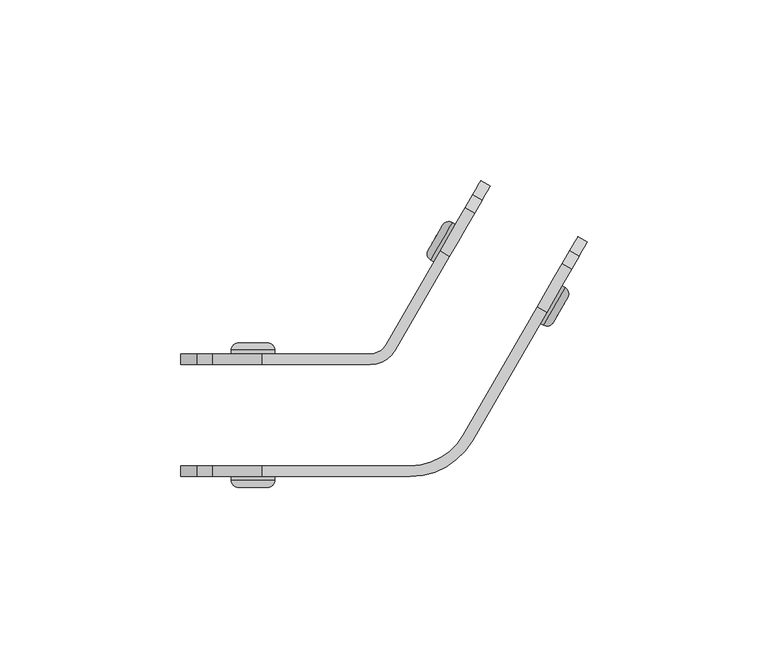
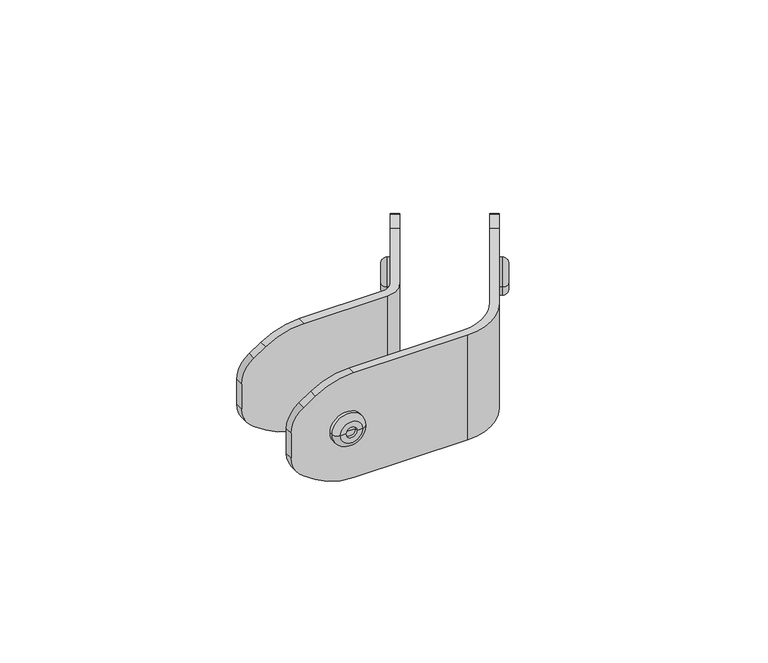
"""IFC4 building model written with IfcOpenShell, lengths in millimetres: furniture geometry, DBLTD_Sixteen3_PrivacyScreens_Artus_Bracket : 120° Corner Link."""

from ifc_helpers import new_model, si_unit, point, frame, origin, place, context, project, spatial, polyline, circle_curve, ellipse_curve, trimmed, source, transform, mapped, element, save
from ifc_brep_helpers import plane_surface, cylinder_surface, revolved_surface, advanced_brep


def furniture_681635c7(model_context):
    return source(origin(), model_context, "Body", "AdvancedBrep", [
        advanced_brep(
        [(26.5, 845.4352448, 100.0), (32.5, 855.8275496, 100.0), (33.3537451, 855.3346397, 100.0), (27.3537451, 844.9423348, 100.0), (29.5, 850.6313972, 100.0), (30.2320508, 847.8993464, 100.0), (32.2320508, 851.363448, 100.0), (31.2320508, 849.6313972, 100.0), (31.0980762, 847.3993464, 100.0), (33.0980762, 850.863448, 100.0), (30.1051663, 845.6795759, 100.0), (34.0909862, 852.5832185, 100.0)],
        [
            (0, 1, circle_curve(frame((29.5, 850.6313972, 100.0), z_axis=(0.866025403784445, -0.49999999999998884, 0.0), x_axis=(0.49999999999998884, 0.866025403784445, 0.0)), 6.0)),
            (1, 2),
            (2, 3, circle_curve(frame((30.3537451, 850.1384873, 100.0), z_axis=(-0.866025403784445, 0.49999999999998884, 0.0), x_axis=(0.49999999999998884, 0.866025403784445, 0.0)), 6.0)),
            (3, 0),
            (1, 0, circle_curve(frame((29.5, 850.6313972, 100.0), z_axis=(0.866025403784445, -0.49999999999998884, 0.0), x_axis=(0.49999999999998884, 0.866025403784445, 0.0)), 6.0)),
            (3, 2, circle_curve(frame((30.3537451, 850.1384873, 100.0), z_axis=(-0.866025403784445, 0.49999999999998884, 0.0), x_axis=(0.49999999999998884, 0.866025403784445, 0.0)), 6.0)),
            (4, 1),
            (0, 4),
            (5, 6, circle_curve(frame((31.2320508, 849.6313972, 100.0), z_axis=(0.866025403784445, -0.49999999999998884, 0.0), x_axis=(0.49999999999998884, 0.866025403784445, 0.0)), 2.0)),
            (6, 7),
            (7, 5),
            (6, 5, circle_curve(frame((31.2320508, 849.6313972, 100.0), z_axis=(0.866025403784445, -0.49999999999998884, 0.0), x_axis=(0.49999999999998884, 0.866025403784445, 0.0)), 2.0)),
            (8, 9, circle_curve(frame((32.0980762, 849.1313972, 100.0), z_axis=(0.866025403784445, -0.49999999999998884, 0.0), x_axis=(0.49999999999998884, 0.866025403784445, 0.0)), 2.0)),
            (9, 6),
            (5, 8),
            (9, 8, circle_curve(frame((32.0980762, 849.1313972, 100.0), z_axis=(0.866025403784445, -0.49999999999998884, 0.0), x_axis=(0.49999999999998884, 0.866025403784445, 0.0)), 2.0)),
            (10, 11, circle_curve(frame((32.0980762, 849.1313972, 100.0), z_axis=(0.866025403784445, -0.49999999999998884, 0.0), x_axis=(0.49999999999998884, 0.866025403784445, 0.0)), 3.9858199)),
            (11, 9),
            (8, 10),
            (11, 10, circle_curve(frame((32.0980762, 849.1313972, 100.0), z_axis=(0.866025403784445, -0.49999999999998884, 0.0), x_axis=(0.49999999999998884, 0.866025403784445, 0.0)), 3.9858199)),
            (2, 11, circle_curve(frame((32.346655, 853.5903085, 100.0), z_axis=(0.0, 0.0, -1.0), x_axis=(-0.499999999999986, -0.8660254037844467, 0.0)), 2.0141801)),
            (10, 3, circle_curve(frame((28.3608351, 846.686666, 100.0), z_axis=(0.0, 0.0, -1.0), x_axis=(0.4999999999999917, 0.8660254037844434, 0.0)), 2.0141801)),
        ],
        [
            cylinder_surface(frame((30.7336307, 849.9191602, 100.0), z_axis=(-0.866025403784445, 0.49999999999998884, 0.0), x_axis=(0.49999999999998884, 0.866025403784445, 0.0)), 6.0),
            plane_surface(frame((29.5, 850.6313972, 100.0), z_axis=(-0.866025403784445, 0.49999999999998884, 0.0), x_axis=(0.49999999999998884, 0.866025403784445, 0.0))),
            plane_surface(frame((31.2320508, 849.6313972, 100.0), z_axis=(0.866025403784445, -0.49999999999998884, 0.0), x_axis=(0.49999999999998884, 0.866025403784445, 0.0))),
            revolved_surface(polyline([(32.23205080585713, 851.3634480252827, 100.0), (33.09807621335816, 850.8634480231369, 100.0)]), (30.7336307, 849.9191602, 100.0), (-0.866025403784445, 0.49999999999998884, 0.0)),
            plane_surface(frame((32.0980762, 849.1313972, 100.0), z_axis=(0.866025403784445, -0.49999999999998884, 0.0), x_axis=(0.49999999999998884, 0.866025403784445, 0.0))),
            revolved_surface(trimmed(ellipse_curve(frame((32.346655, 853.5903085, 100.0), z_axis=(0.0, 0.0, 1.0), x_axis=(-0.499999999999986, -0.8660254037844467, 0.0)), 2.0141801, 2.0141801), [point((34.0909862, 852.5832185, 100.0))], [point((33.3537451, 855.3346397, 100.0))], True, "CARTESIAN"), (30.7336307, 849.9191602, 100.0), (-0.866025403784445, 0.49999999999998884, 0.0)),
        ],
        [
            (0, [[1, 2, 3, 4]]),
            (0, [[5, -4, 6, -2]]),
            (1, [[7, -1, 8]]),
            (1, [[-8, -5, -7]]),
            (2, [[9, 10, 11]]),
            (2, [[12, -11, -10]]),
            (3, [[13, 14, -9, 15]]),
            (3, [[16, -15, -12, -14]]),
            (4, [[17, 18, -13, 19]]),
            (4, [[20, -19, -16, -18]]),
            (5, [[-3, 21, -17, 22]]),
            (5, [[-6, -22, -20, -21]]),
        ],
    ),
        advanced_brep(
        [(-3.7986088, 862.9281547, 100.0), (2.2013912, 873.3204596, 100.0), (3.0551363, 872.8275496, 100.0), (-2.9448637, 862.4352448, 100.0), (0.0551363, 867.6313972, 100.0), (-1.6769145, 868.6313972, 100.0), (-0.6769145, 870.363448, 100.0), (-2.6769145, 866.8993464, 100.0), (-1.5429399, 870.863448, 100.0), (-3.5429399, 867.3993464, 100.0), (-0.55003, 872.5832185, 100.0), (-4.5358499, 865.6795759, 100.0)],
        [
            (0, 1, circle_curve(frame((-0.7986088, 868.1243072, 100.0), z_axis=(0.8660254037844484, -0.4999999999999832, 0.0), x_axis=(0.4999999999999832, 0.8660254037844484, 0.0)), 6.0)),
            (1, 2),
            (2, 3, circle_curve(frame((0.0551363, 867.6313972, 100.0), z_axis=(-0.8660254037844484, 0.4999999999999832, 0.0), x_axis=(0.4999999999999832, 0.8660254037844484, 0.0)), 6.0)),
            (3, 0),
            (1, 0, circle_curve(frame((-0.7986088, 868.1243072, 100.0), z_axis=(0.8660254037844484, -0.4999999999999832, 0.0), x_axis=(0.4999999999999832, 0.8660254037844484, 0.0)), 6.0)),
            (3, 2, circle_curve(frame((0.0551363, 867.6313972, 100.0), z_axis=(-0.8660254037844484, 0.4999999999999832, 0.0), x_axis=(0.4999999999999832, 0.8660254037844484, 0.0)), 6.0)),
            (2, 4),
            (4, 3),
            (5, 6),
            (6, 7, circle_curve(frame((-1.6769145, 868.6313972, 100.0), z_axis=(-0.8660254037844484, 0.4999999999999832, 0.0), x_axis=(0.4999999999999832, 0.8660254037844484, 0.0)), 2.0)),
            (7, 5),
            (7, 6, circle_curve(frame((-1.6769145, 868.6313972, 100.0), z_axis=(-0.8660254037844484, 0.4999999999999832, 0.0), x_axis=(0.4999999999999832, 0.8660254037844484, 0.0)), 2.0)),
            (6, 8),
            (8, 9, circle_curve(frame((-2.5429399, 869.1313972, 100.0), z_axis=(-0.8660254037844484, 0.4999999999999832, 0.0), x_axis=(0.4999999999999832, 0.8660254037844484, 0.0)), 2.0)),
            (9, 7),
            (9, 8, circle_curve(frame((-2.5429399, 869.1313972, 100.0), z_axis=(-0.8660254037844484, 0.4999999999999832, 0.0), x_axis=(0.4999999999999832, 0.8660254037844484, 0.0)), 2.0)),
            (8, 10),
            (10, 11, circle_curve(frame((-2.5429399, 869.1313972, 100.0), z_axis=(-0.8660254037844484, 0.4999999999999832, 0.0), x_axis=(0.4999999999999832, 0.8660254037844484, 0.0)), 3.9858199)),
            (11, 9),
            (11, 10, circle_curve(frame((-2.5429399, 869.1313972, 100.0), z_axis=(-0.8660254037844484, 0.4999999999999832, 0.0), x_axis=(0.4999999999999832, 0.8660254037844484, 0.0)), 3.9858199)),
            (10, 1, circle_curve(frame((1.1943011, 871.5761284, 100.0), z_axis=(0.0, 0.0, -1.0), x_axis=(-0.499999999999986, -0.8660254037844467, 0.0)), 2.0141801)),
            (0, 11, circle_curve(frame((-2.7915187, 864.6724859, 100.0), z_axis=(0.0, 0.0, -1.0), x_axis=(0.49999999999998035, 0.86602540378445, 0.0)), 2.0141801)),
        ],
        [
            cylinder_surface(frame((-1.1784944, 868.3436342, 100.0), z_axis=(-0.8660254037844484, 0.4999999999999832, 0.0), x_axis=(0.4999999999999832, 0.8660254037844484, 0.0)), 6.0),
            plane_surface(frame((0.0551363, 867.6313972, 100.0), z_axis=(0.8660254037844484, -0.4999999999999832, 0.0), x_axis=(0.4999999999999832, 0.8660254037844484, 0.0))),
            plane_surface(frame((-1.6769145, 868.6313972, 100.0), z_axis=(-0.8660254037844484, 0.4999999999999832, 0.0), x_axis=(0.4999999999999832, 0.8660254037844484, 0.0))),
            revolved_surface(polyline([(-1.54293991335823, 870.8634479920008, 100.0), (-0.6769145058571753, 870.3634479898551, 100.0)]), (-1.1784944, 868.3436342, 100.0), (-0.8660254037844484, 0.4999999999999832, 0.0)),
            plane_surface(frame((-2.5429399, 869.1313972, 100.0), z_axis=(-0.8660254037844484, 0.4999999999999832, 0.0), x_axis=(0.4999999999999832, 0.8660254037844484, 0.0))),
            revolved_surface(trimmed(ellipse_curve(frame((1.1943011, 871.5761284, 100.0), z_axis=(0.0, 0.0, 1.0), x_axis=(-0.499999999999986, -0.8660254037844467, 0.0)), 2.0141801, 2.0141801), [point((2.2013912, 873.3204596, 100.0))], [point((-0.55003, 872.5832185, 100.0))], True, "CARTESIAN"), (-1.1784944, 868.3436342, 100.0), (-0.8660254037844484, 0.4999999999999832, 0.0)),
        ],
        [
            (0, [[1, 2, 3, 4]]),
            (0, [[5, -4, 6, -2]]),
            (1, [[-3, 7, 8]]),
            (1, [[-6, -8, -7]]),
            (2, [[9, 10, 11]]),
            (2, [[-11, 12, -9]]),
            (3, [[-10, 13, 14, 15]]),
            (3, [[-12, -15, 16, -13]]),
            (4, [[-14, 17, 18, 19]]),
            (4, [[-16, -19, 20, -17]]),
            (5, [[-18, 21, -1, 22]]),
            (5, [[-20, -22, -5, -21]]),
        ],
    ),
        advanced_brep(
        [(-47.0, 802.0141801, 100.0), (-59.0, 802.0141801, 100.0), (-59.0, 803.0, 100.0), (-47.0, 803.0, 100.0), (-53.0, 803.0, 100.0), (-53.0, 801.0, 100.0), (-55.0, 801.0, 100.0), (-51.0, 801.0, 100.0), (-55.0, 800.0, 100.0), (-51.0, 800.0, 100.0), (-56.9858199, 800.0, 100.0), (-49.0141801, 800.0, 100.0)],
        [
            (0, 1, circle_curve(frame((-53.0, 802.0141801, 100.0), z_axis=(0.0, 1.0, 0.0), x_axis=(-1.0, 0.0, 0.0)), 6.0)),
            (1, 2),
            (2, 3, circle_curve(frame((-53.0, 803.0, 100.0), z_axis=(0.0, -1.0, 0.0), x_axis=(-1.0, 0.0, 0.0)), 6.0)),
            (3, 0),
            (1, 0, circle_curve(frame((-53.0, 802.0141801, 100.0), z_axis=(0.0, 1.0, 0.0), x_axis=(-1.0, 0.0, 0.0)), 6.0)),
            (3, 2, circle_curve(frame((-53.0, 803.0, 100.0), z_axis=(0.0, -1.0, 0.0), x_axis=(-1.0, 0.0, 0.0)), 6.0)),
            (2, 4),
            (4, 3),
            (5, 6),
            (6, 7, circle_curve(frame((-53.0, 801.0, 100.0), z_axis=(0.0, -1.0, 0.0), x_axis=(-1.0, 0.0, 0.0)), 2.0)),
            (7, 5),
            (7, 6, circle_curve(frame((-53.0, 801.0, 100.0), z_axis=(0.0, -1.0, 0.0), x_axis=(-1.0, 0.0, 0.0)), 2.0)),
            (6, 8),
            (8, 9, circle_curve(frame((-53.0, 800.0, 100.0), z_axis=(0.0, -1.0, 0.0), x_axis=(-1.0, 0.0, 0.0)), 2.0)),
            (9, 7),
            (9, 8, circle_curve(frame((-53.0, 800.0, 100.0), z_axis=(0.0, -1.0, 0.0), x_axis=(-1.0, 0.0, 0.0)), 2.0)),
            (8, 10),
            (10, 11, circle_curve(frame((-53.0, 800.0, 100.0), z_axis=(0.0, -1.0, 0.0), x_axis=(-1.0, 0.0, 0.0)), 3.9858199)),
            (11, 9),
            (11, 10, circle_curve(frame((-53.0, 800.0, 100.0), z_axis=(0.0, -1.0, 0.0), x_axis=(-1.0, 0.0, 0.0)), 3.9858199)),
            (10, 1, circle_curve(frame((-56.9858199, 802.0141801, 100.0), z_axis=(0.0, 0.0, -1.0), x_axis=(1.0, 0.0, 0.0)), 2.0141801)),
            (0, 11, circle_curve(frame((-49.0141801, 802.0141801, 100.0), z_axis=(0.0, 0.0, -1.0), x_axis=(-1.0, 0.0, 0.0)), 2.0141801)),
        ],
        [
            cylinder_surface(frame((-53.0, 801.575526, 100.0), z_axis=(0.0, -1.0, 0.0), x_axis=(-1.0, 0.0, 0.0)), 6.0),
            plane_surface(frame((-53.0, 803.0, 100.0), z_axis=(0.0, 1.0, 0.0), x_axis=(-1.0, 0.0, 0.0))),
            plane_surface(frame((-53.0, 801.0, 100.0), z_axis=(0.0, -1.0, 0.0), x_axis=(-1.0, 0.0, 0.0))),
            revolved_surface(polyline([(-55.0, 800.0, 100.0), (-55.0, 801.0, 100.0)]), (-53.0, 801.575526, 100.0), (0.0, -1.0, 0.0)),
            plane_surface(frame((-53.0, 800.0, 100.0), z_axis=(0.0, -1.0, 0.0), x_axis=(-1.0, 0.0, 0.0))),
            revolved_surface(trimmed(ellipse_curve(frame((-56.9858199, 802.0141801, 100.0), z_axis=(0.0, 0.0, 1.0), x_axis=(1.0, 0.0, 0.0)), 2.0141801, 2.0141801), [point((-59.0, 802.0141801, 100.0))], [point((-56.9858199, 800.0, 100.0))], True, "CARTESIAN"), (-53.0, 801.575526, 100.0), (0.0, -1.0, 0.0)),
        ],
        [
            (0, [[1, 2, 3, 4]]),
            (0, [[5, -4, 6, -2]]),
            (1, [[-3, 7, 8]]),
            (1, [[-6, -8, -7]]),
            (2, [[9, 10, 11]]),
            (2, [[-11, 12, -9]]),
            (3, [[-10, 13, 14, 15]]),
            (3, [[-12, -15, 16, -13]]),
            (4, [[-14, 17, 18, 19]]),
            (4, [[-16, -19, 20, -17]]),
            (5, [[-18, 21, -1, 22]]),
            (5, [[-20, -22, -5, -21]]),
        ],
    ),
        advanced_brep(
        [(-47.0, 837.0, 100.0), (-59.0, 837.0, 100.0), (-59.0, 837.9858199, 100.0), (-47.0, 837.9858199, 100.0), (-53.0, 837.0, 100.0), (-51.0, 839.0, 100.0), (-55.0, 839.0, 100.0), (-53.0, 839.0, 100.0), (-51.0, 840.0, 100.0), (-55.0, 840.0, 100.0), (-49.0141801, 840.0, 100.0), (-56.9858199, 840.0, 100.0)],
        [
            (0, 1, circle_curve(frame((-53.0, 837.0, 100.0), z_axis=(0.0, 1.0, 0.0), x_axis=(-1.0, 0.0, 0.0)), 6.0)),
            (1, 2),
            (2, 3, circle_curve(frame((-53.0, 837.9858199, 100.0), z_axis=(0.0, -1.0, 0.0), x_axis=(-1.0, 0.0, 0.0)), 6.0)),
            (3, 0),
            (1, 0, circle_curve(frame((-53.0, 837.0, 100.0), z_axis=(0.0, 1.0, 0.0), x_axis=(-1.0, 0.0, 0.0)), 6.0)),
            (3, 2, circle_curve(frame((-53.0, 837.9858199, 100.0), z_axis=(0.0, -1.0, 0.0), x_axis=(-1.0, 0.0, 0.0)), 6.0)),
            (4, 1),
            (0, 4),
            (5, 6, circle_curve(frame((-53.0, 839.0, 100.0), z_axis=(0.0, 1.0, 0.0), x_axis=(-1.0, 0.0, 0.0)), 2.0)),
            (6, 7),
            (7, 5),
            (6, 5, circle_curve(frame((-53.0, 839.0, 100.0), z_axis=(0.0, 1.0, 0.0), x_axis=(-1.0, 0.0, 0.0)), 2.0)),
            (8, 9, circle_curve(frame((-53.0, 840.0, 100.0), z_axis=(0.0, 1.0, 0.0), x_axis=(-1.0, 0.0, 0.0)), 2.0)),
            (9, 6),
            (5, 8),
            (9, 8, circle_curve(frame((-53.0, 840.0, 100.0), z_axis=(0.0, 1.0, 0.0), x_axis=(-1.0, 0.0, 0.0)), 2.0)),
            (10, 11, circle_curve(frame((-53.0, 840.0, 100.0), z_axis=(0.0, 1.0, 0.0), x_axis=(-1.0, 0.0, 0.0)), 3.9858199)),
            (11, 9),
            (8, 10),
            (11, 10, circle_curve(frame((-53.0, 840.0, 100.0), z_axis=(0.0, 1.0, 0.0), x_axis=(-1.0, 0.0, 0.0)), 3.9858199)),
            (2, 11, circle_curve(frame((-56.9858199, 837.9858199, 100.0), z_axis=(0.0, 0.0, -1.0), x_axis=(1.0, 0.0, 0.0)), 2.0141801)),
            (10, 3, circle_curve(frame((-49.0141801, 837.9858199, 100.0), z_axis=(0.0, 0.0, -1.0), x_axis=(-1.0, 0.0, 0.0)), 2.0141801)),
        ],
        [
            cylinder_surface(frame((-53.0, 838.424474, 100.0), z_axis=(0.0, -1.0, 0.0), x_axis=(-1.0, 0.0, 0.0)), 6.0),
            plane_surface(frame((-53.0, 837.0, 100.0), z_axis=(0.0, -1.0, 0.0), x_axis=(-1.0, 0.0, 0.0))),
            plane_surface(frame((-53.0, 839.0, 100.0), z_axis=(0.0, 1.0, 0.0), x_axis=(-1.0, 0.0, 0.0))),
            revolved_surface(polyline([(-55.0, 839.0, 100.0), (-55.0, 840.0, 100.0)]), (-53.0, 838.424474, 100.0), (0.0, -1.0, 0.0)),
            plane_surface(frame((-53.0, 840.0, 100.0), z_axis=(0.0, 1.0, 0.0), x_axis=(-1.0, 0.0, 0.0))),
            revolved_surface(trimmed(ellipse_curve(frame((-56.9858199, 837.9858199, 100.0), z_axis=(0.0, 0.0, 1.0), x_axis=(1.0, 0.0, 0.0)), 2.0141801, 2.0141801), [point((-56.9858199, 840.0, 100.0))], [point((-59.0, 837.9858199, 100.0))], True, "CARTESIAN"), (-53.0, 838.424474, 100.0), (0.0, -1.0, 0.0)),
        ],
        [
            (0, [[1, 2, 3, 4]]),
            (0, [[5, -4, 6, -2]]),
            (1, [[7, -1, 8]]),
            (1, [[-8, -5, -7]]),
            (2, [[9, 10, 11]]),
            (2, [[12, -11, -10]]),
            (3, [[13, 14, -9, 15]]),
            (3, [[16, -15, -12, -14]]),
            (4, [[17, 18, -13, 19]]),
            (4, [[20, -19, -16, -18]]),
            (5, [[-3, 21, -17, 22]]),
            (5, [[-6, -22, -20, -21]]),
        ],
    ),
        advanced_brep(
        [(-9.5470054, 803.0, 120.0), (7.7735027, 813.0, 120.0), (28.2153045, 848.4062394, 120.0), (25.6172283, 849.9062394, 120.0), (5.1754265, 814.5, 120.0), (-9.5470054, 806.0, 120.0), (-50.4306091, 806.0, 120.0), (-50.4306091, 803.0, 120.0), (-9.5470054, 806.0, 80.0), (5.1754265, 814.5, 80.0), (25.6172283, 849.9062394, 80.0), (28.2153045, 848.4062394, 80.0), (7.7735027, 813.0, 80.0), (-9.5470054, 803.0, 80.0), (-50.4306091, 803.0, 80.0), (-50.4306091, 806.0, 80.0), (-73.0, 806.0, 104.6481624), (-73.0, 806.0, 95.3518376), (-73.0, 803.0, 95.3518376), (-73.0, 803.0, 104.6481624), (-64.298114, 803.0, 115.8012574), (-68.547002, 803.0, 112.9686654), (-68.547002, 803.0, 87.0313346), (-64.298114, 803.0, 84.1987426), (35.149057, 860.4158509, 84.1987426), (37.273501, 864.0954959, 87.0313346), (39.5, 867.9519053, 95.3518376), (39.5, 867.9519053, 104.6481624), (37.273501, 864.0954959, 112.9686654), (35.149057, 860.4158509, 115.8012574), (36.9019238, 869.4519053, 95.3518376), (36.9019238, 869.4519053, 104.6481624), (32.5509808, 861.9158509, 115.8012574), (34.6754248, 865.5954959, 112.9686654), (34.6754248, 865.5954959, 87.0313346), (32.5509808, 861.9158509, 84.1987426), (-64.298114, 806.0, 84.1987426), (-68.547002, 806.0, 87.0313346), (-68.547002, 806.0, 112.9686654), (-64.298114, 806.0, 115.8012574)],
        [
            (0, 1, circle_curve(frame((-9.5470054, 823.0, 120.0), z_axis=(0.0, 0.0, 1.0), x_axis=(1.0, 0.0, 0.0)), 20.0)),
            (1, 2),
            (2, 3),
            (3, 4),
            (4, 5, circle_curve(frame((-9.5470054, 823.0, 120.0), z_axis=(0.0, 0.0, -1.0), x_axis=(1.0, 0.0, 0.0)), 17.0)),
            (5, 6),
            (6, 7),
            (7, 0),
            (8, 9, circle_curve(frame((-9.5470054, 823.0, 80.0), z_axis=(0.0, 0.0, 1.0), x_axis=(1.0, 0.0, 0.0)), 17.0)),
            (9, 10),
            (10, 11),
            (11, 12),
            (12, 13, circle_curve(frame((-9.5470054, 823.0, 80.0), z_axis=(0.0, 0.0, -1.0), x_axis=(1.0, 0.0, 0.0)), 20.0)),
            (13, 14),
            (14, 15),
            (15, 8),
            (16, 17),
            (17, 18),
            (18, 19),
            (19, 16),
            (13, 0),
            (7, 20, circle_curve(frame((-50.4306091, 803.0, 95.0), z_axis=(0.0, -1.0, 0.0), x_axis=(1.0, 0.0, 0.0)), 25.0)),
            (20, 21),
            (21, 19, circle_curve(frame((-63.0, 803.0, 104.6481624), z_axis=(0.0, -1.0, 0.0), x_axis=(1.0, 0.0, 0.0)), 10.0)),
            (18, 22, circle_curve(frame((-63.0, 803.0, 95.3518376), z_axis=(0.0, -1.0, 0.0), x_axis=(1.0, 0.0, 0.0)), 10.0)),
            (22, 23),
            (23, 14, circle_curve(frame((-50.4306091, 803.0, 105.0), z_axis=(0.0, -1.0, 0.0), x_axis=(1.0, 0.0, 0.0)), 25.0)),
            (12, 1),
            (11, 24, circle_curve(frame((28.2153045, 848.4062394, 105.0), z_axis=(0.8660254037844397, -0.4999999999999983, 0.0), x_axis=(-0.4999999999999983, -0.8660254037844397, 0.0)), 25.0)),
            (24, 25),
            (25, 26, circle_curve(frame((34.5, 859.2916512, 95.3518376), z_axis=(0.8660254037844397, -0.4999999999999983, 0.0), x_axis=(-0.4999999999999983, -0.8660254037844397, 0.0)), 10.0)),
            (26, 27),
            (27, 28, circle_curve(frame((34.5, 859.2916512, 104.6481624), z_axis=(0.8660254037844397, -0.4999999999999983, 0.0), x_axis=(-0.4999999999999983, -0.8660254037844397, 0.0)), 10.0)),
            (28, 29),
            (29, 2, circle_curve(frame((28.2153045, 848.4062394, 95.0), z_axis=(0.8660254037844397, -0.4999999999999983, 0.0), x_axis=(-0.4999999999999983, -0.8660254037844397, 0.0)), 25.0)),
            (26, 30),
            (30, 31),
            (31, 27),
            (9, 4),
            (3, 32, circle_curve(frame((25.6172283, 849.9062394, 95.0), z_axis=(-0.8660254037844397, 0.4999999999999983, 0.0), x_axis=(-0.4999999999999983, -0.8660254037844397, 0.0)), 25.0)),
            (32, 33),
            (33, 31, circle_curve(frame((31.9019238, 860.7916512, 104.6481624), z_axis=(-0.8660254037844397, 0.4999999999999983, 0.0), x_axis=(-0.4999999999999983, -0.8660254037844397, 0.0)), 10.0)),
            (30, 34, circle_curve(frame((31.9019238, 860.7916512, 95.3518376), z_axis=(-0.8660254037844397, 0.4999999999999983, 0.0), x_axis=(-0.4999999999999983, -0.8660254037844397, 0.0)), 10.0)),
            (34, 35),
            (35, 10, circle_curve(frame((25.6172283, 849.9062394, 105.0), z_axis=(-0.8660254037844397, 0.4999999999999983, 0.0), x_axis=(-0.4999999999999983, -0.8660254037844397, 0.0)), 25.0)),
            (8, 5),
            (15, 36, circle_curve(frame((-50.4306091, 806.0, 105.0), z_axis=(0.0, 1.0, 0.0), x_axis=(1.0, 0.0, 0.0)), 25.0)),
            (36, 37),
            (37, 17, circle_curve(frame((-63.0, 806.0, 95.3518376), z_axis=(0.0, 1.0, 0.0), x_axis=(1.0, 0.0, 0.0)), 10.0)),
            (16, 38, circle_curve(frame((-63.0, 806.0, 104.6481624), z_axis=(0.0, 1.0, 0.0), x_axis=(1.0, 0.0, 0.0)), 10.0)),
            (38, 39),
            (39, 6, circle_curve(frame((-50.4306091, 806.0, 95.0), z_axis=(0.0, 1.0, 0.0), x_axis=(1.0, 0.0, 0.0)), 25.0)),
            (23, 36),
            (22, 37),
            (21, 38),
            (20, 39),
            (33, 28),
            (32, 29),
            (35, 24),
            (34, 25),
        ],
        [
            plane_surface(frame((-73.0, 806.0, 120.0), z_axis=(0.0, 0.0, 1.0), x_axis=(0.0, -1.0, 0.0))),
            plane_surface(frame((-73.0, 806.0, 80.0), z_axis=(0.0, 0.0, -1.0), x_axis=(0.0, 1.0, 0.0))),
            plane_surface(frame((-73.0, 806.0, 120.0), z_axis=(-1.0, 0.0, 0.0), x_axis=(0.0, 0.0, -1.0))),
            plane_surface(frame((-73.0, 803.0, 120.0), z_axis=(0.0, -1.0, 0.0), x_axis=(0.0, 0.0, -1.0))),
            cylinder_surface(frame((-9.5470054, 823.0, 80.0), z_axis=(0.0, 0.0, 1.0), x_axis=(1.0, 0.0, 0.0)), 20.0),
            plane_surface(frame((7.7735027, 813.0, 120.0), z_axis=(0.8660254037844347, -0.5000000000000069, 0.0), x_axis=(0.0, 0.0, -1.0))),
            plane_surface(frame((39.5, 867.9519053, 120.0), z_axis=(0.500000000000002, 0.8660254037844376, 0.0), x_axis=(0.0, 0.0, -1.0))),
            plane_surface(frame((36.9019238, 869.4519053, 120.0), z_axis=(-0.8660254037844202, 0.5000000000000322, 0.0), x_axis=(0.0, 0.0, -1.0))),
            revolved_surface(polyline([(7.4529946, 823.0, 80.0), (7.4529946, 823.0, 120.0)]), (-9.5470054, 823.0, 80.0), (0.0, 0.0, -1.0)),
            plane_surface(frame((-9.5470054, 806.0, 120.0), z_axis=(0.0, 1.0, 0.0), x_axis=(0.0, 0.0, -1.0))),
            cylinder_surface(frame((-50.4306091, 837.0, 105.0), z_axis=(0.0, 1.0, 0.0), x_axis=(1.0, 0.0, 0.0)), 25.0),
            plane_surface(frame((-64.298114, 803.0, 84.1987426), z_axis=(-0.5547001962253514, 0.0, -0.8320502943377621), x_axis=(0.0, 1.0, 0.0))),
            cylinder_surface(frame((-63.0, 837.0, 95.3518376), z_axis=(0.0, 1.0, 0.0), x_axis=(1.0, 0.0, 0.0)), 10.0),
            cylinder_surface(frame((-63.0, 0.0, 104.6481624), z_axis=(0.0, 1.0, 0.0), x_axis=(1.0, 0.0, 0.0)), 10.0),
            plane_surface(frame((-68.547002, 803.0, 112.9686654), z_axis=(-0.5547001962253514, 0.0, 0.8320502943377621), x_axis=(0.0, 1.0, 0.0))),
            cylinder_surface(frame((-50.4306091, 0.0, 95.0), z_axis=(0.0, 1.0, 0.0), x_axis=(1.0, 0.0, 0.0)), 25.0),
            cylinder_surface(frame((5.0551363, 876.2916512, 104.6481624), z_axis=(-0.8660254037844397, 0.4999999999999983, 0.0), x_axis=(-0.4999999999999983, -0.8660254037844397, 0.0)), 10.0),
            plane_surface(frame((35.149057, 860.4158509, 115.8012574), z_axis=(0.27735009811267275, 0.48038446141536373, 0.8320502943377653), x_axis=(-0.8660254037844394, 0.49999999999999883, 0.0))),
            cylinder_surface(frame((-1.2295592, 865.4062394, 95.0), z_axis=(-0.8660254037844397, 0.4999999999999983, 0.0), x_axis=(-0.4999999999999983, -0.8660254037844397, 0.0)), 25.0),
            cylinder_surface(frame((-1.2295592, 865.4062394, 105.0), z_axis=(-0.8660254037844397, 0.4999999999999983, 0.0), x_axis=(-0.4999999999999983, -0.8660254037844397, 0.0)), 25.0),
            plane_surface(frame((37.273501, 864.0954959, 87.0313346), z_axis=(0.27735009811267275, 0.48038446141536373, -0.8320502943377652), x_axis=(-0.8660254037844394, 0.4999999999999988, 0.0))),
            cylinder_surface(frame((5.0551363, 876.2916512, 95.3518376), z_axis=(-0.8660254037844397, 0.4999999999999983, 0.0), x_axis=(-0.4999999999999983, -0.8660254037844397, 0.0)), 10.0),
        ],
        [
            (0, [[1, 2, 3, 4, 5, 6, 7, 8]]),
            (1, [[9, 10, 11, 12, 13, 14, 15, 16]]),
            (2, [[17, 18, 19, 20]]),
            (3, [[21, -8, 22, 23, 24, -19, 25, 26, 27, -14]]),
            (4, [[-1, -21, -13, 28]]),
            (5, [[-28, -12, 29, 30, 31, 32, 33, 34, 35, -2]]),
            (6, [[-32, 36, 37, 38]]),
            (7, [[39, -4, 40, 41, 42, -37, 43, 44, 45, -10]]),
            (8, [[-5, -39, -9, 46]]),
            (9, [[-46, -16, 47, 48, 49, -17, 50, 51, 52, -6]]),
            (10, [[53, -47, -15, -27]]),
            (11, [[-53, -26, 54, -48]]),
            (12, [[-54, -25, -18, -49]]),
            (13, [[55, -50, -20, -24]]),
            (14, [[-55, -23, 56, -51]]),
            (15, [[-56, -22, -7, -52]]),
            (16, [[57, -33, -38, -42]]),
            (17, [[-57, -41, 58, -34]]),
            (18, [[-58, -40, -3, -35]]),
            (19, [[59, -29, -11, -45]]),
            (20, [[-59, -44, 60, -30]]),
            (21, [[-60, -43, -36, -31]]),
        ],
    ),
        advanced_brep(
        [(-20.5166605, 834.0, 120.0), (-13.5884573, 838.0, 120.0), (1.368517, 863.9062394, 120.0), (-1.2295592, 865.4062394, 120.0), (-16.1865335, 839.5, 120.0), (-20.5166605, 837.0, 120.0), (-50.4306091, 837.0, 120.0), (-50.4306091, 834.0, 120.0), (-20.5166605, 837.0, 80.0), (-16.1865335, 839.5, 80.0), (-1.2295592, 865.4062394, 80.0), (1.368517, 863.9062394, 80.0), (-13.5884573, 838.0, 80.0), (-20.5166605, 834.0, 80.0), (-50.4306091, 834.0, 80.0), (-50.4306091, 837.0, 80.0), (-64.298114, 837.0, 84.1987426), (-68.547002, 837.0, 87.0313346), (-73.0, 837.0, 95.3518376), (-73.0, 837.0, 104.6481624), (-68.547002, 837.0, 112.9686654), (-64.298114, 837.0, 115.8012574), (-73.0, 834.0, 95.3518376), (-73.0, 834.0, 104.6481624), (-64.298114, 834.0, 115.8012574), (-68.547002, 834.0, 112.9686654), (-68.547002, 834.0, 87.0313346), (-64.298114, 834.0, 84.1987426), (8.3022695, 875.9158509, 84.1987426), (10.4267135, 879.5954959, 87.0313346), (12.6532125, 883.4519053, 95.3518376), (12.6532125, 883.4519053, 104.6481624), (10.4267135, 879.5954959, 112.9686654), (8.3022695, 875.9158509, 115.8012574), (10.0551363, 884.9519053, 95.3518376), (10.0551363, 884.9519053, 104.6481624), (5.7041933, 877.4158509, 115.8012574), (7.8286373, 881.0954959, 112.9686654), (7.8286373, 881.0954959, 87.0313346), (5.7041933, 877.4158509, 84.1987426)],
        [
            (0, 1, circle_curve(frame((-20.5166605, 842.0, 120.0), z_axis=(0.0, 0.0, 1.0), x_axis=(1.0, 0.0, 0.0)), 8.0)),
            (1, 2),
            (2, 3),
            (3, 4),
            (4, 5, circle_curve(frame((-20.5166605, 842.0, 120.0), z_axis=(0.0, 0.0, -1.0), x_axis=(1.0, 0.0, 0.0)), 5.0)),
            (5, 6),
            (6, 7),
            (7, 0),
            (8, 9, circle_curve(frame((-20.5166605, 842.0, 80.0), z_axis=(0.0, 0.0, 1.0), x_axis=(1.0, 0.0, 0.0)), 5.0)),
            (9, 10),
            (10, 11),
            (11, 12),
            (12, 13, circle_curve(frame((-20.5166605, 842.0, 80.0), z_axis=(0.0, 0.0, -1.0), x_axis=(1.0, 0.0, 0.0)), 8.0)),
            (13, 14),
            (14, 15),
            (15, 8),
            (5, 8),
            (15, 16, circle_curve(frame((-50.4306091, 837.0, 105.0), z_axis=(0.0, 1.0, 0.0), x_axis=(1.0, 0.0, 0.0)), 25.0)),
            (16, 17),
            (17, 18, circle_curve(frame((-63.0, 837.0, 95.3518376), z_axis=(0.0, 1.0, 0.0), x_axis=(1.0, 0.0, 0.0)), 10.0)),
            (18, 19),
            (19, 20, circle_curve(frame((-63.0, 837.0, 104.6481624), z_axis=(0.0, 1.0, 0.0), x_axis=(1.0, 0.0, 0.0)), 10.0)),
            (20, 21),
            (21, 6, circle_curve(frame((-50.4306091, 837.0, 95.0), z_axis=(0.0, 1.0, 0.0), x_axis=(1.0, 0.0, 0.0)), 25.0)),
            (18, 22),
            (22, 23),
            (23, 19),
            (13, 0),
            (7, 24, circle_curve(frame((-50.4306091, 834.0, 95.0), z_axis=(0.0, -1.0, 0.0), x_axis=(1.0, 0.0, 0.0)), 25.0)),
            (24, 25),
            (25, 23, circle_curve(frame((-63.0, 834.0, 104.6481624), z_axis=(0.0, -1.0, 0.0), x_axis=(1.0, 0.0, 0.0)), 10.0)),
            (22, 26, circle_curve(frame((-63.0, 834.0, 95.3518376), z_axis=(0.0, -1.0, 0.0), x_axis=(1.0, 0.0, 0.0)), 10.0)),
            (26, 27),
            (27, 14, circle_curve(frame((-50.4306091, 834.0, 105.0), z_axis=(0.0, -1.0, 0.0), x_axis=(1.0, 0.0, 0.0)), 25.0)),
            (12, 1),
            (11, 28, circle_curve(frame((1.368517, 863.9062394, 105.0), z_axis=(0.8660254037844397, -0.4999999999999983, 0.0), x_axis=(-0.4999999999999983, -0.8660254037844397, 0.0)), 25.0)),
            (28, 29),
            (29, 30, circle_curve(frame((7.6532125, 874.7916512, 95.3518376), z_axis=(0.8660254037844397, -0.4999999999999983, 0.0), x_axis=(-0.4999999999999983, -0.8660254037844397, 0.0)), 10.0)),
            (30, 31),
            (31, 32, circle_curve(frame((7.6532125, 874.7916512, 104.6481624), z_axis=(0.8660254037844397, -0.4999999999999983, 0.0), x_axis=(-0.4999999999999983, -0.8660254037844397, 0.0)), 10.0)),
            (32, 33),
            (33, 2, circle_curve(frame((1.368517, 863.9062394, 95.0), z_axis=(0.8660254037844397, -0.4999999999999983, 0.0), x_axis=(-0.4999999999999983, -0.8660254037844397, 0.0)), 25.0)),
            (30, 34),
            (34, 35),
            (35, 31),
            (9, 4),
            (3, 36, circle_curve(frame((-1.2295592, 865.4062394, 95.0), z_axis=(-0.8660254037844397, 0.4999999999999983, 0.0), x_axis=(-0.4999999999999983, -0.8660254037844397, 0.0)), 25.0)),
            (36, 37),
            (37, 35, circle_curve(frame((5.0551363, 876.2916512, 104.6481624), z_axis=(-0.8660254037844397, 0.4999999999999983, 0.0), x_axis=(-0.4999999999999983, -0.8660254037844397, 0.0)), 10.0)),
            (34, 38, circle_curve(frame((5.0551363, 876.2916512, 95.3518376), z_axis=(-0.8660254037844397, 0.4999999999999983, 0.0), x_axis=(-0.4999999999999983, -0.8660254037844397, 0.0)), 10.0)),
            (38, 39),
            (39, 10, circle_curve(frame((-1.2295592, 865.4062394, 105.0), z_axis=(-0.8660254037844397, 0.4999999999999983, 0.0), x_axis=(-0.4999999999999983, -0.8660254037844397, 0.0)), 25.0)),
            (27, 16),
            (26, 17),
            (25, 20),
            (24, 21),
            (37, 32),
            (36, 33),
            (39, 28),
            (38, 29),
        ],
        [
            plane_surface(frame((-73.0, 837.0, 120.0), z_axis=(0.0, 0.0, 1.0), x_axis=(-1.0, 0.0, 0.0))),
            plane_surface(frame((-73.0, 837.0, 80.0), z_axis=(0.0, 0.0, -1.0), x_axis=(1.0, 0.0, 0.0))),
            plane_surface(frame((-20.5166605, 837.0, 120.0), z_axis=(0.0, 1.0, 0.0), x_axis=(0.0, 0.0, -1.0))),
            plane_surface(frame((-73.0, 837.0, 120.0), z_axis=(-1.0, 0.0, 0.0), x_axis=(0.0, 0.0, -1.0))),
            plane_surface(frame((-73.0, 834.0, 120.0), z_axis=(0.0, -1.0, 0.0), x_axis=(0.0, 0.0, -1.0))),
            cylinder_surface(frame((-20.5166605, 842.0, 80.0), z_axis=(0.0, 0.0, 1.0), x_axis=(1.0, 0.0, 0.0)), 8.0),
            plane_surface(frame((-13.5884573, 838.0, 120.0), z_axis=(0.8660254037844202, -0.5000000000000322, 0.0), x_axis=(0.0, 0.0, -1.0))),
            plane_surface(frame((12.6532125, 883.4519053, 120.0), z_axis=(0.49999999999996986, 0.8660254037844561, 0.0), x_axis=(0.0, 0.0, -1.0))),
            plane_surface(frame((10.0551363, 884.9519053, 120.0), z_axis=(-0.8660254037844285, 0.5000000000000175, 0.0), x_axis=(0.0, 0.0, -1.0))),
            revolved_surface(polyline([(-15.5166605, 842.0, 80.0), (-15.5166605, 842.0, 120.0)]), (-20.5166605, 842.0, 80.0), (0.0, 0.0, -1.0)),
            cylinder_surface(frame((-50.4306091, 837.0, 105.0), z_axis=(0.0, 1.0, 0.0), x_axis=(1.0, 0.0, 0.0)), 25.0),
            plane_surface(frame((-64.298114, 803.0, 84.1987426), z_axis=(-0.5547001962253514, 0.0, -0.8320502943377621), x_axis=(0.0, 1.0, 0.0))),
            cylinder_surface(frame((-63.0, 837.0, 95.3518376), z_axis=(0.0, 1.0, 0.0), x_axis=(1.0, 0.0, 0.0)), 10.0),
            cylinder_surface(frame((-63.0, 0.0, 104.6481624), z_axis=(0.0, 1.0, 0.0), x_axis=(1.0, 0.0, 0.0)), 10.0),
            plane_surface(frame((-68.547002, 803.0, 112.9686654), z_axis=(-0.5547001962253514, 0.0, 0.8320502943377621), x_axis=(0.0, 1.0, 0.0))),
            cylinder_surface(frame((-50.4306091, 0.0, 95.0), z_axis=(0.0, 1.0, 0.0), x_axis=(1.0, 0.0, 0.0)), 25.0),
            cylinder_surface(frame((5.0551363, 876.2916512, 104.6481624), z_axis=(-0.8660254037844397, 0.4999999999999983, 0.0), x_axis=(-0.4999999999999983, -0.8660254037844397, 0.0)), 10.0),
            plane_surface(frame((35.149057, 860.4158509, 115.8012574), z_axis=(0.27735009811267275, 0.48038446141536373, 0.8320502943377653), x_axis=(-0.8660254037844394, 0.49999999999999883, 0.0))),
            cylinder_surface(frame((-1.2295592, 865.4062394, 95.0), z_axis=(-0.8660254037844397, 0.4999999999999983, 0.0), x_axis=(-0.4999999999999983, -0.8660254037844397, 0.0)), 25.0),
            cylinder_surface(frame((-1.2295592, 865.4062394, 105.0), z_axis=(-0.8660254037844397, 0.4999999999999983, 0.0), x_axis=(-0.4999999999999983, -0.8660254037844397, 0.0)), 25.0),
            plane_surface(frame((37.273501, 864.0954959, 87.0313346), z_axis=(0.27735009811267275, 0.48038446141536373, -0.8320502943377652), x_axis=(-0.8660254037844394, 0.4999999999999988, 0.0))),
            cylinder_surface(frame((5.0551363, 876.2916512, 95.3518376), z_axis=(-0.8660254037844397, 0.4999999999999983, 0.0), x_axis=(-0.4999999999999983, -0.8660254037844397, 0.0)), 10.0),
        ],
        [
            (0, [[1, 2, 3, 4, 5, 6, 7, 8]]),
            (1, [[9, 10, 11, 12, 13, 14, 15, 16]]),
            (2, [[17, -16, 18, 19, 20, 21, 22, 23, 24, -6]]),
            (3, [[-21, 25, 26, 27]]),
            (4, [[28, -8, 29, 30, 31, -26, 32, 33, 34, -14]]),
            (5, [[-1, -28, -13, 35]]),
            (6, [[-35, -12, 36, 37, 38, 39, 40, 41, 42, -2]]),
            (7, [[-39, 43, 44, 45]]),
            (8, [[46, -4, 47, 48, 49, -44, 50, 51, 52, -10]]),
            (9, [[-5, -46, -9, -17]]),
            (10, [[53, -18, -15, -34]]),
            (11, [[-53, -33, 54, -19]]),
            (12, [[-54, -32, -25, -20]]),
            (13, [[55, -22, -27, -31]]),
            (14, [[-55, -30, 56, -23]]),
            (15, [[-56, -29, -7, -24]]),
            (16, [[57, -40, -45, -49]]),
            (17, [[-57, -48, 58, -41]]),
            (18, [[-58, -47, -3, -42]]),
            (19, [[59, -36, -11, -52]]),
            (20, [[-59, -51, 60, -37]]),
            (21, [[-60, -50, -43, -38]]),
        ],
    ),
    ])


if __name__ == "__main__":
    model = new_model("IFC4")
    model_context = context("Model", 3, world=origin())
    ifc_project = project(units=[si_unit("LENGTHUNIT", "METRE", prefix="MILLI")], contexts=[model_context])
    site = spatial("IfcSite", under=ifc_project)
    building = spatial("IfcBuilding", under=site)
    placement = place(None, origin())
    furniture_shape = furniture_681635c7(model_context)
    element("IfcFurniture", 1, ObjectType="DBLTD_Sixteen3_PrivacyScreens_Artus_Bracket : 120° Corner Link", at=placement, inside=building, context=model_context, shape_type="MappedRepresentation", body=[
        mapped(furniture_shape, transform((0.0, 0.0, 0.0), x_axis=(1.0, 0.0, 0.0), y_axis=(0.0, 1.0, 0.0), z_axis=(0.0, 0.0, 1.0))),
    ])
    save(model, "model.ifc")
